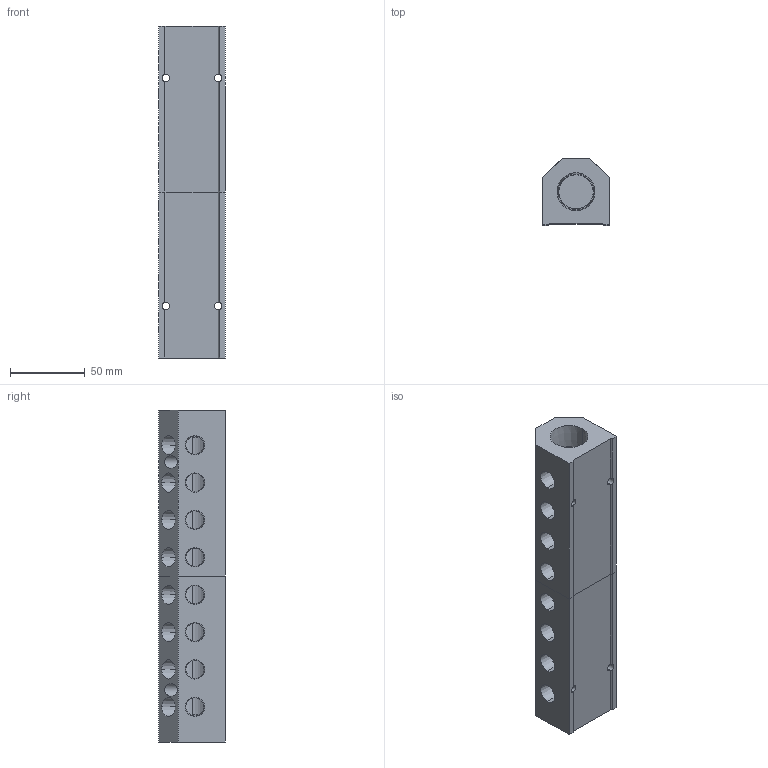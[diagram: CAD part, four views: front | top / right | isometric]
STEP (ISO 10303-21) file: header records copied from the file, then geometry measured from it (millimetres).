
FILE_DESCRIPTION (( 'STEP AP214' ), '1' );
FILE_NAME ('ALM8AB-N4N12-222RB.step', '2022-02-06T14:18:50', ( '' ), ( '' ), 'SwSTEP 2.0', 'SolidWorks 2020', '' );
FILE_SCHEMA (( 'AUTOMOTIVE_DESIGN' ));
Length unit declared in the file: millimetre
Products named in the file (1): ALM8AB-N4N12-222RB
Bounding box: 44.5 x 44.5 x 222 mm (x, y, z)
Volume: 274574.2 mm3; surface area: 64879 mm2
Topology: 2 solids, 2 shells, 378 faces, 1046 edges, 694 vertices
Faces by surface type: plane 242, bspline 69, cone 41, cylinder 26
Entity records: 21140 total; most frequent: CARTESIAN_POINT 8372, ORIENTED_EDGE 2092, DIRECTION 1508, EDGE_CURVE 1046, VECTOR 720, LINE 720, VERTEX_POINT 694, EDGE_LOOP 440
